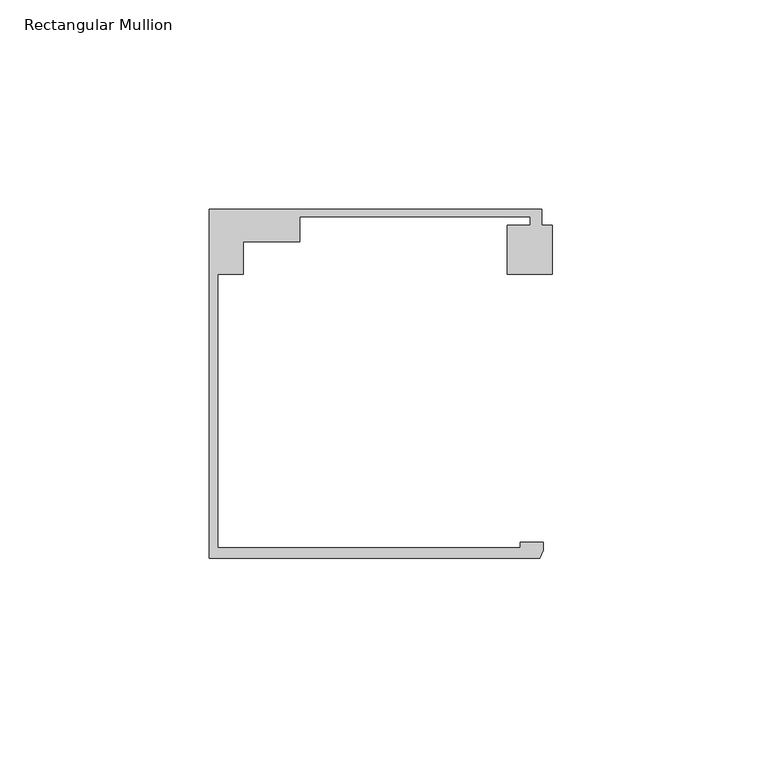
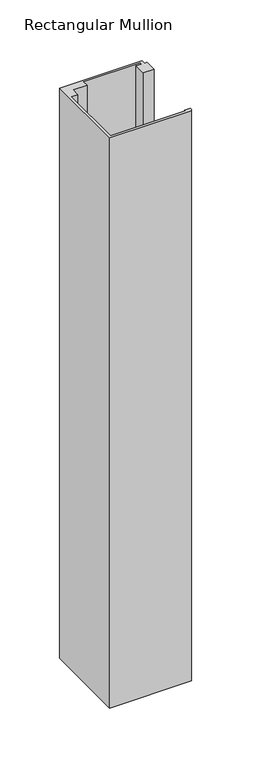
"""IFC4 building model written with IfcOpenShell, lengths in millimetres: member geometry, Rectangular Mullion : Danpal_Airpt_End-Mullion_B1."""

from ifc_helpers import new_model, si_unit, frame, origin, place, context, project, spatial, polyline, outline, extrude, source, transform, mapped, element, save


def rectangular_mullion_98820b6d(model_context):
    return source(origin(), model_context, "Body", "SweptSolid", [
        extrude(outline(polyline([(24.3058808, -74.9940824), (24.3058808, -73.6940824), (29.8368746, -73.6940824), (29.8368746, -75.5472671), (28.9099149, -77.4940825), (-49.941586, -77.4940825), (-49.941586, 5.8051514), (29.4059014, 5.8051514), (29.4059014, 2.0051513), (31.9176464, 2.0051513), (31.9176464, -9.6875514), (21.2017673, -9.6875514), (21.2017673, 2.0051513), (26.7062306, 2.0051513), (26.7062306, 4.0051512), (-28.3937694, 4.0051512), (-28.3937694, -1.8818054), (-41.841586, -1.8818054), (-41.841586, -9.7188964), (-47.9415858, -9.7188964), (-47.9415858, -74.9940824), (24.3058808, -74.9940824)])), frame((0.0, 0.0, -580.058414), z_axis=(0.0, 0.0, 1.0), x_axis=(1.0, 0.0, 0.0)), (0.0, 0.0, 1.0), 580.058414),
    ])


if __name__ == "__main__":
    model = new_model("IFC4")
    model_context = context("Model", 3, world=origin())
    ifc_project = project(units=[si_unit("LENGTHUNIT", "METRE", prefix="MILLI")], contexts=[model_context])
    site = spatial("IfcSite", under=ifc_project)
    building = spatial("IfcBuilding", under=site)
    placement = place(None, origin())
    rectangular_mullion_shape = rectangular_mullion_98820b6d(model_context)
    element("IfcMember", 1, ObjectType="Rectangular Mullion : Danpal_Airpt_End-Mullion_B1", at=placement, inside=building, context=model_context, shape_type="MappedRepresentation", body=[
        mapped(rectangular_mullion_shape, transform((0.0, 0.0, 0.0), x_axis=(1.0, 0.0, 0.0), y_axis=(0.0, 1.0, 0.0), z_axis=(0.0, 0.0, 1.0))),
    ])
    save(model, "model.ifc")
